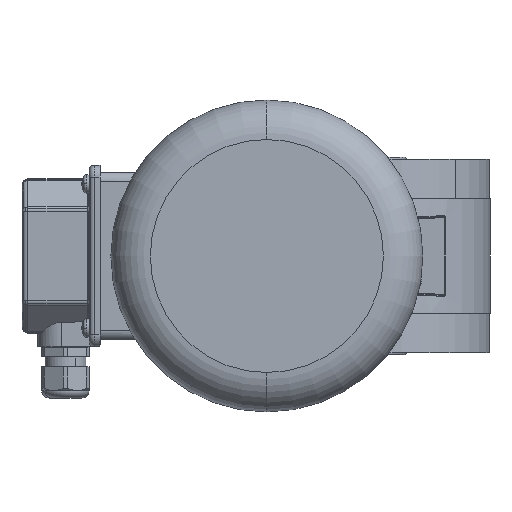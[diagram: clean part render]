
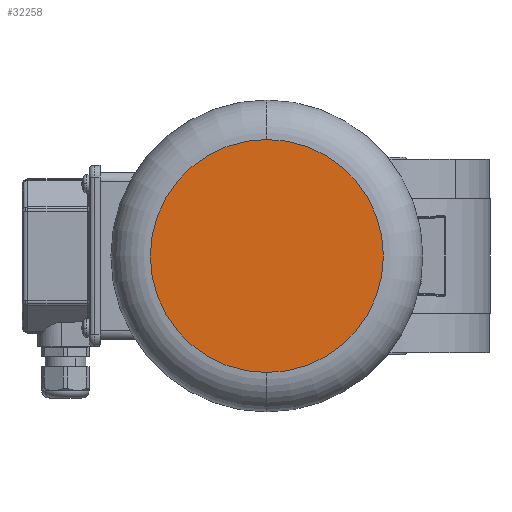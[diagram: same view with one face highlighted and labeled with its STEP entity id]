
A CAD part, left-side view. The second image highlights one B-rep face of the part: STEP entity #32258.
In plain terms, the highlighted planar face has unit normal (-1, 0, 0) as drawn and (1, 0, 0) by its records, which use the part's own axes.
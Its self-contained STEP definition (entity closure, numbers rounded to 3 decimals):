
#2497 = FACE_OUTER_BOUND ( 'NONE', #10971, .T. ) ;
#3003 = DIRECTION ( 'NONE',  ( 0., 0., 1. ) ) ;
#6292 = CARTESIAN_POINT ( 'NONE',  ( 234., 0., 0. ) ) ;
#7278 = AXIS2_PLACEMENT_3D ( 'NONE', #6292, #23804, #18697 ) ;
#7619 = VERTEX_POINT ( 'NONE', #22471 ) ;
#7923 = DIRECTION ( 'NONE',  ( -1., 0., 0. ) ) ;
#10971 = EDGE_LOOP ( 'NONE', ( #15586, #15200 ) ) ;
#12567 = PLANE ( 'NONE',  #31939 ) ;
#14689 = CARTESIAN_POINT ( 'NONE',  ( 234., 0., 0. ) ) ;
#15200 = ORIENTED_EDGE ( 'NONE', *, *, #26100, .F. ) ;
#15586 = ORIENTED_EDGE ( 'NONE', *, *, #25600, .F. ) ;
#18697 = DIRECTION ( 'NONE',  ( 0., 0., 1. ) ) ;
#19439 = AXIS2_PLACEMENT_3D ( 'NONE', #14689, #31676, #27052 ) ;
#20334 = CARTESIAN_POINT ( 'NONE',  ( 234., 0., 0. ) ) ;
#22076 = CIRCLE ( 'NONE', #19439, 59. ) ;
#22471 = CARTESIAN_POINT ( 'NONE',  ( 234., 0., -59. ) ) ;
#23804 = DIRECTION ( 'NONE',  ( -1., 0., 0. ) ) ;
#25600 = EDGE_CURVE ( 'NONE', #29165, #7619, #26777, .T. ) ;
#26100 = EDGE_CURVE ( 'NONE', #7619, #29165, #22076, .T. ) ;
#26777 = CIRCLE ( 'NONE', #7278, 59. ) ;
#27052 = DIRECTION ( 'NONE',  ( 0., 0., 1. ) ) ;
#29165 = VERTEX_POINT ( 'NONE', #30154 ) ;
#30154 = CARTESIAN_POINT ( 'NONE',  ( 234., 0., 59. ) ) ;
#31676 = DIRECTION ( 'NONE',  ( -1., 0., 0. ) ) ;
#31939 = AXIS2_PLACEMENT_3D ( 'NONE', #20334, #7923, #3003 ) ;
#32258 = ADVANCED_FACE ( 'NONE', ( #2497 ), #12567, .F. ) ;
